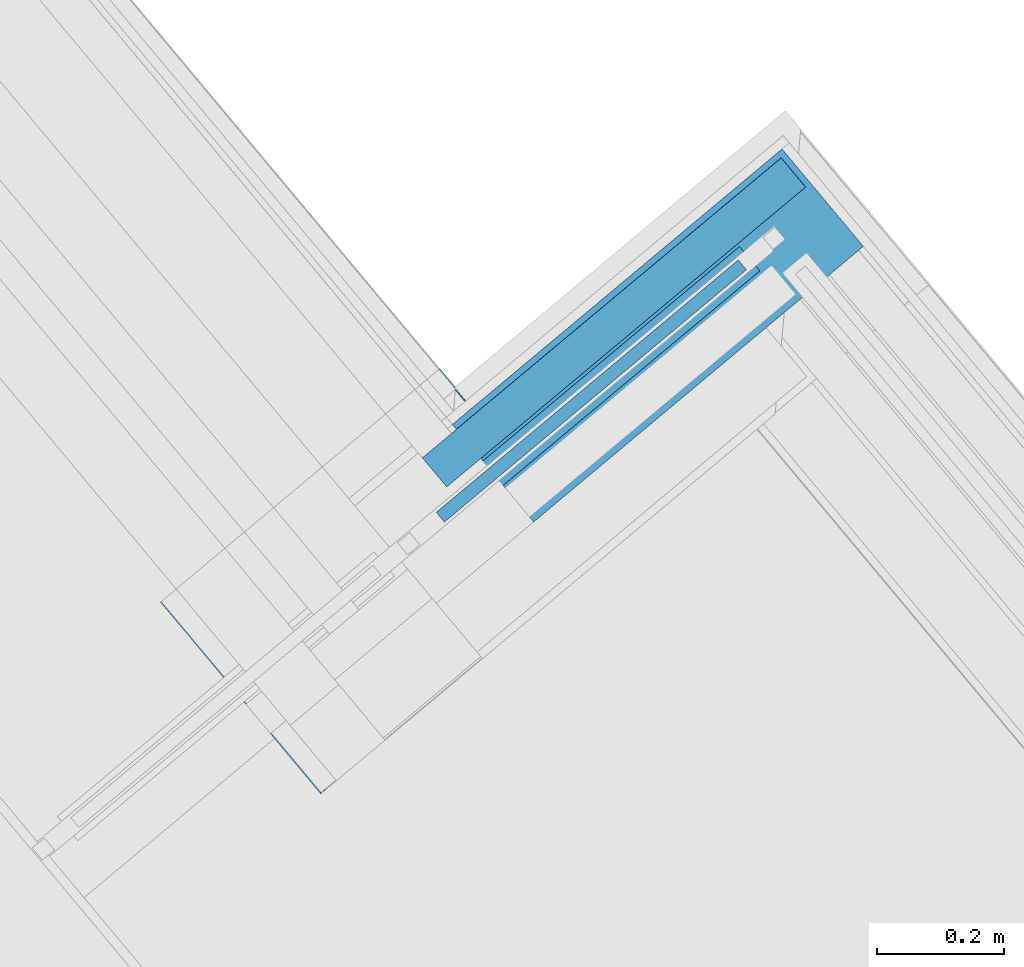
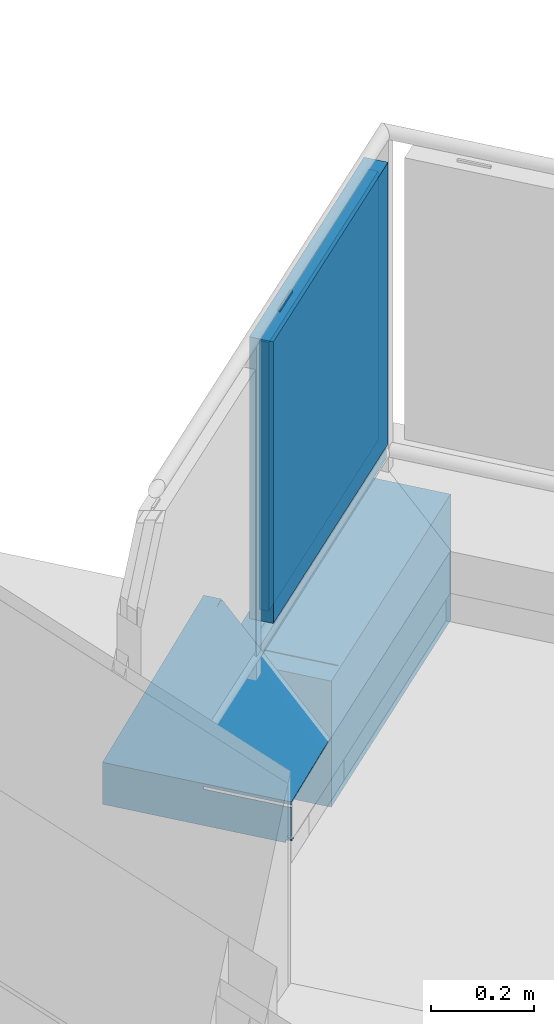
# One storey, part 51 of 61: 5 building element parts, 3 elements without a shape of their own.
"""IFC4 building model written with IfcOpenShell, lengths in metres."""

import ifcopenshell
import ifcopenshell.guid

model = None  # the IFC model being written
_history = None  # IfcOwnerHistory: only IFC2X3 demands one
_inside = {}  # id of a spatial element -> (the spatial element, [elements in it])
_under = {}  # id of a project, library or spatial element -> (it, [spatial elements below it])
_declared = {}  # id of a project -> (the project, [libraries it declares])
_typed = {}  # id of a type object -> (the type object, [elements of that type])
_made_of = {}  # id of a material, layer set ... -> (it, [elements and type objects made of it])


def new_model(schema):
    """Start an empty IFC model of exactly this schema.

    Asked for "IFC4X3", IfcOpenShell would pick the latest addendum, in which some entities
    have other attributes; the version numbers below select the first issue.
    IFC2X3 requires an IfcOwnerHistory on every rooted entity: one is made here for all.
    """
    global model, _history
    if schema == "IFC4X3":
        model = ifcopenshell.file(schema_version=(4, 3, 0, 0))
    else:
        model = ifcopenshell.file(schema=schema)
    _inside.clear()
    _under.clear()
    _declared.clear()
    _typed.clear()
    _made_of.clear()
    _history = None
    if model.schema == "IFC2X3":
        org = make("IfcOrganization", Name="unknown")
        user = make(
            "IfcPersonAndOrganization",
            ThePerson=make("IfcPerson", FamilyName="unknown"),
            TheOrganization=org,
        )
        app = make(
            "IfcApplication",
            ApplicationDeveloper=org,
            Version="unknown",
            ApplicationFullName="unknown",
            ApplicationIdentifier="unknown",
        )
        _history = make(
            "IfcOwnerHistory",
            OwningUser=user,
            OwningApplication=app,
            ChangeAction="ADDED",
            CreationDate=0,
        )
    return model


def make(cls, **values):
    """One entity of the class cls with the attributes given. An attribute that is None is left unset."""
    return model.create_entity(
        cls, **{name: value for name, value in values.items() if value is not None}
    )


def entity(cls, *values):
    """Any entity or typed value of the class cls, its attributes in the order of the schema. None: left unset."""
    e = model.create_entity(cls)
    for i, value in enumerate(values):
        if value is not None:
            e[i] = value
    return e


def rooted(cls, **values):
    """An entity with a GlobalId (a new one), such as an element, a storey or a relation."""
    return make(cls, GlobalId=ifcopenshell.guid.new(), OwnerHistory=_history, **values)


def si_unit(unit_type, name, prefix=None):
    """IfcSIUnit, for example si_unit("LENGTHUNIT", "METRE", prefix="MILLI")."""
    return make("IfcSIUnit", UnitType=unit_type, Prefix=prefix, Name=name)


def converted_unit(unit_type, name, factor, base, dimensions=None, offset=None):
    """IfcConversionBasedUnit, such as the inch: factor (a typed value) times the base unit."""
    return make(
        "IfcConversionBasedUnit"
        if offset is None
        else "IfcConversionBasedUnitWithOffset",
        ConversionOffset=offset,
        Dimensions=None
        if dimensions is None
        else entity("IfcDimensionalExponents", *dimensions),
        UnitType=unit_type,
        Name=name,
        ConversionFactor=make(
            "IfcMeasureWithUnit", ValueComponent=factor, UnitComponent=base
        ),
    )


def derived_unit(unit_type, elements):
    """IfcDerivedUnit: a product of units, each with its exponent."""
    return make(
        "IfcDerivedUnit",
        Elements=[
            make("IfcDerivedUnitElement", Unit=unit, Exponent=power)
            for unit, power in elements
        ],
        UnitType=unit_type,
    )


def assignment(units):
    """IfcUnitAssignment: the units of a project."""
    return None if units is None else make("IfcUnitAssignment", Units=units)


def point(xyz):
    """IfcCartesianPoint."""
    return None if xyz is None else make("IfcCartesianPoint", Coordinates=xyz)


def direction(xyz):
    """IfcDirection."""
    return None if xyz is None else make("IfcDirection", DirectionRatios=xyz)


def frame(location, z_axis=None, x_axis=None):
    """IfcAxis2Placement3D, a coordinate frame: its origin and axes. An axis left out is left unset."""
    return make(
        "IfcAxis2Placement3D",
        Location=point(location),
        Axis=direction(z_axis),
        RefDirection=direction(x_axis),
    )


def origin_with_axes():
    """The frame at (0, 0, 0) with the z axis (0, 0, 1) and the x axis (1, 0, 0) written out."""
    return frame((0.0, 0.0, 0.0), z_axis=(0.0, 0.0, 1.0), x_axis=(1.0, 0.0, 0.0))


def place(relative_to, where):
    """IfcLocalPlacement: puts the frame where relative to a parent placement (None: the world)."""
    return make(
        "IfcLocalPlacement", PlacementRelTo=relative_to, RelativePlacement=where
    )


def context(
    kind, dimensions, precision=None, world=None, true_north=None, identifier=None
):
    """IfcGeometricRepresentationContext, for example the 3D "Model" context."""
    return make(
        "IfcGeometricRepresentationContext",
        ContextIdentifier=identifier,
        ContextType=kind,
        CoordinateSpaceDimension=dimensions,
        Precision=precision,
        WorldCoordinateSystem=world,
        TrueNorth=true_north,
    )


def subcontext(parent, identifier, kind, view, scale=None):
    """IfcGeometricRepresentationSubContext, for example "Body" below "Model"."""
    return make(
        "IfcGeometricRepresentationSubContext",
        ContextIdentifier=identifier,
        ContextType=kind,
        ParentContext=parent,
        TargetScale=scale,
        TargetView=view,
    )


def project(units=None, contexts=None):
    """IfcProject with its units and contexts."""
    return rooted(
        "IfcProject",
        Name="project",
        RepresentationContexts=contexts,
        UnitsInContext=assignment(units),
    )


def spatial(cls, under=None, at=None, **own):
    """A site, building, storey or space (cls), placed at a placement, below another one or the project."""
    s = rooted(cls, ObjectPlacement=at, **own)
    if under is not None:
        _under.setdefault(under.id(), (under, []))[1].append(s)
    return s


def point_list(points):
    """IfcCartesianPointList2D or 3D."""
    cls = (
        "IfcCartesianPointList2D" if len(points[0]) == 2 else "IfcCartesianPointList3D"
    )
    return make(cls, CoordList=points)


def polygons(points, faces, closed=None, point_numbers=None):
    """IfcPolygonalFaceSet: a face is its outer loop, then its inner loops; points numbered from 1."""
    made = []
    for loops in faces:
        if len(loops) == 1:
            made.append(make("IfcIndexedPolygonalFace", CoordIndex=loops[0]))
        else:
            made.append(
                make(
                    "IfcIndexedPolygonalFaceWithVoids",
                    CoordIndex=loops[0],
                    InnerCoordIndices=loops[1:],
                )
            )
    return make(
        "IfcPolygonalFaceSet",
        Coordinates=point_list(points),
        Closed=closed,
        Faces=made,
        PnIndex=point_numbers,
    )


def shape(context_of_items, identifier, shape_type, items):
    """IfcShapeRepresentation: the items that make up one representation, for example the "Body"."""
    return make(
        "IfcShapeRepresentation",
        ContextOfItems=context_of_items,
        RepresentationIdentifier=identifier,
        RepresentationType=shape_type,
        Items=items,
    )


def material(Name=None, Category=None):
    """IfcMaterial."""
    return make("IfcMaterial", Name=Name, Category=Category)


def made_of(thing, what):
    """Note that an element or type object is made of a material, layer set ...; save() writes the relation."""
    if what is not None:
        _made_of.setdefault(what.id(), (what, []))[1].append(thing)
    return thing


def type_object(cls, material=None, **own):
    """A type object (cls), such as IfcWallType, which elements share."""
    return made_of(rooted(cls, **own), material)


def element(
    cls,
    number,
    at=None,
    inside=None,
    cuts=None,
    type_object=None,
    material=None,
    context=None,
    identifier="Body",
    shape_type=None,
    held_by="IfcProductDefinitionShape",
    body=None,
    shapes=None,
    **own,
):
    """One element of the class cls, such as IfcWall. Its Tag is "e" and its number.

    at: its placement. inside: the storey or other place that contains it. cuts: it is an
    opening in that element (IfcRelVoidsElement). A single representation is given by context,
    identifier, shape_type and body (its items); several are given by shapes. held_by: the class
    of the entity that holds the representations. save() writes the other relations.
    """
    e = rooted(cls, Tag="e%d" % number, ObjectPlacement=at, **own)
    if body is not None:
        shapes = [shape(context, identifier, shape_type, body)]
    if shapes is not None:
        e.Representation = make(held_by, Representations=shapes)
    if inside is not None:
        _inside.setdefault(inside.id(), (inside, []))[1].append(e)
    if cuts is not None:
        rooted(
            "IfcRelVoidsElement", RelatingBuildingElement=cuts, RelatedOpeningElement=e
        )
    if type_object is not None:
        _typed.setdefault(type_object.id(), (type_object, []))[1].append(e)
    return made_of(e, material)


def aggregate(whole, parts):
    """IfcRelAggregates: a whole, such as a stair, and the parts it consists of."""
    return rooted("IfcRelAggregates", RelatingObject=whole, RelatedObjects=parts)


def save(model, path):
    """Write the relations noted so far, then the file.

    IfcRelAggregates (storeys below a building ...), IfcRelContainedInSpatialStructure (elements
    in a storey), IfcRelDefinesByType, IfcRelAssociatesMaterial and IfcRelDeclares: one each for
    every whole, place, type object, material and project.
    """
    for whole, parts in _under.values():
        aggregate(whole, parts)
    for where, things in _inside.values():
        rooted(
            "IfcRelContainedInSpatialStructure",
            RelatedElements=things,
            RelatingStructure=where,
        )
    for kind, things in _typed.values():
        rooted("IfcRelDefinesByType", RelatedObjects=things, RelatingType=kind)
    for what, things in _made_of.values():
        rooted("IfcRelAssociatesMaterial", RelatedObjects=things, RelatingMaterial=what)
    for by, libraries in _declared.values():
        rooted("IfcRelDeclares", RelatingContext=by, RelatedDefinitions=libraries)
    model.write(path)


model = new_model("IFC4")

# Units and contexts
model_context = context("Model", 3, precision=1e-05, world=origin_with_axes(), true_north=direction((0.0, 1.0)))
body_context = subcontext(model_context, "Body", "Model", "MODEL_VIEW")
ifc_project = project(units=[si_unit("LENGTHUNIT", "METRE"), si_unit("AREAUNIT", "SQUARE_METRE"), si_unit("VOLUMEUNIT", "CUBIC_METRE"), converted_unit("PLANEANGLEUNIT", "DEGREE", entity("IfcPlaneAngleMeasure", 0.0174532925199), si_unit("PLANEANGLEUNIT", "RADIAN"), dimensions=[0, 0, 0, 0, 0, 0, 0]), converted_unit("TIMEUNIT", "Year", entity("IfcTimeMeasure", 31556926.0), si_unit("TIMEUNIT", "SECOND"), dimensions=[0, 0, 1, 0, 0, 0, 0]), si_unit("MASSUNIT", "GRAM", prefix="KILO"), si_unit("THERMODYNAMICTEMPERATUREUNIT", "DEGREE_CELSIUS"), si_unit("LUMINOUSINTENSITYUNIT", "LUMEN"), si_unit("ENERGYUNIT", "JOULE", prefix="MEGA"), derived_unit("THERMALCONDUCTANCEUNIT", [(si_unit("POWERUNIT", "WATT"), 1), (si_unit("LENGTHUNIT", "METRE"), -1), (si_unit("THERMODYNAMICTEMPERATUREUNIT", "KELVIN"), -1)]), derived_unit("SPECIFICHEATCAPACITYUNIT", [(si_unit("ENERGYUNIT", "JOULE"), 1), (si_unit("MASSUNIT", "GRAM", prefix="KILO"), -1), (si_unit("THERMODYNAMICTEMPERATUREUNIT", "KELVIN"), -1)]), derived_unit("MASSDENSITYUNIT", [(si_unit("MASSUNIT", "GRAM", prefix="KILO"), 1), (si_unit("VOLUMEUNIT", "CUBIC_METRE"), -1)])], contexts=[model_context])

# Site, building, storey
site_placement = place(None, frame((-0.00153261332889, -0.00661245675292, 0.0), z_axis=(0.0, 0.0, 1.0), x_axis=(1.0, 0.0, 0.0)))
site = spatial("IfcSite", under=ifc_project, at=site_placement, Name="Gelände", CompositionType="ELEMENT")
building_placement = place(site_placement, origin_with_axes())
building = spatial("IfcBuilding", under=site, at=building_placement, Name="Gebäude", CompositionType="ELEMENT")
storey_placement = place(building_placement, frame((0.0, 0.0, 5.7), z_axis=(0.0, 0.0, 1.0), x_axis=(1.0, 0.0, 0.0)))
storey = spatial("IfcBuildingStorey", under=building, at=storey_placement, Name="DG1", CompositionType="ELEMENT", Elevation=5.7)

# Wall, building element part
wall_type_1 = type_object("IfcWallType", Name="Bauteil - Attika Terrasse 1.DG 574 x 410", PredefinedType="NOTDEFINED")
wall_1_placement = place(storey_placement, frame((9.8973799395, 25.5957671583, -0.2), z_axis=(0.0, 0.0, 1.0), x_axis=(0.641209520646, -0.767365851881, 0.0)))
wall_1 = element("IfcWall", 1, at=wall_1_placement, inside=storey, type_object=wall_type_1, Name="Wand-003", PredefinedType="NOTDEFINED")
ifc_material_1 = material(Name="Stahl")
building_element_part_1_placement = place(wall_1_placement, origin_with_axes())
building_element_part_1 = element("IfcBuildingElementPart", 2, at=building_element_part_1_placement, material=ifc_material_1, Name="Stahl", PredefinedType="NOTDEFINED", context=body_context, shape_type="Tessellation", body=[
    polygons([(0.392247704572, -0.332051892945, 0.499999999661), (0.393601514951, -0.332051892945, 0.499999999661), (0.393601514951, -0.330698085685, 0.499999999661), (0.392247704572, -0.330698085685, 0.499999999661), (0.391162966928, -0.332051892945, 0.499999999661), (0.389248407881, -0.332051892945, 0.499999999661), (0.38342770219, -0.332051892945, 0.505820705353), (0.384431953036, -0.332051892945, 0.506731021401), (0.392247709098, -0.332051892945, 0.506731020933), (0.392247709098, -0.332051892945, 0.50905023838), (0.392247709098, -0.332051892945, 0.509099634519), (0.392247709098, -0.332051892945, 0.511361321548), (0.392247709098, -0.332051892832, 0.511410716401), (0.392247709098, -0.332051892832, 0.519224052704), (0.392247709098, -0.332051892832, 0.519273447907), (0.392247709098, -0.332051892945, 0.559999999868), (0.392247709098, -0.332051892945, 0.567947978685), (0.392247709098, -0.332051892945, 0.573880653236), (0.392247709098, -0.332051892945, 0.575576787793), (0.392247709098, -0.332051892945, 0.575979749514), (0.391553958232, -0.332051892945, 0.575979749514), (0.38000056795, -0.332051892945, 0.575979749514), (0.269946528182, -0.332051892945, 0.575979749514), (0.209857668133, -0.332051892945, 0.575979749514), (0.209857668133, -0.332051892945, 0.579822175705), (0.209857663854, -0.332051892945, 0.581921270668), (0.391761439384, -0.332051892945, 0.581921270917), (0.392247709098, -0.332051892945, 0.581921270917), (0.392247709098, -0.332051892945, 0.584015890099), (0.392247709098, -0.332051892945, 0.586106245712), (0.392247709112, -0.332051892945, 0.587937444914), (0.392247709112, -0.332051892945, 0.589243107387), (0.0, -0.332051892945, 0.589243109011), (0.0, -0.332051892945, 0.489652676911), (0.380000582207, -0.332051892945, 0.489652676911), (0.380000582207, -0.332051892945, 0.49660417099), (0.392644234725, -0.332051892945, 0.49660417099), (0.393601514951, -0.332051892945, 0.497561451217), (0.393601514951, -0.330698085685, 0.497561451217), (0.380000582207, -0.330698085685, 0.49660417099), (0.380000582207, -0.330698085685, 0.491006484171), (0.0, -0.330698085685, 0.491006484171), (0.0, -0.330698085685, 0.587937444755), (0.392247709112, -0.330698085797, 0.587937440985), (0.392247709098, -0.330698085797, 0.586106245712), (0.392247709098, -0.330698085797, 0.584015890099), (0.392247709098, -0.330698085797, 0.581921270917), (0.391761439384, -0.330698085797, 0.581921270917), (0.209857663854, -0.330698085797, 0.581921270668), (0.209857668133, -0.330698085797, 0.579822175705), (0.209857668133, -0.330698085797, 0.575979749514), (0.269946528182, -0.330698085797, 0.575979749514), (0.38000056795, -0.330698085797, 0.575979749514), (0.391553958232, -0.330698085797, 0.575979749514), (0.392247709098, -0.330698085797, 0.575979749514), (0.392247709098, -0.330698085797, 0.575576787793), (0.392247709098, -0.330698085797, 0.573880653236), (0.392247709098, -0.330698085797, 0.567947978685), (0.392247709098, -0.330698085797, 0.559999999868), (0.392247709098, -0.330698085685, 0.519273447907), (0.392247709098, -0.330698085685, 0.519224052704), (0.392247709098, -0.330698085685, 0.511410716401), (0.392247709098, -0.330698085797, 0.511361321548), (0.392247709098, -0.330698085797, 0.509099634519), (0.392247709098, -0.330698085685, 0.50905023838), (0.392247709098, -0.330698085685, 0.506731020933), (0.384431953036, -0.330698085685, 0.506731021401), (0.38342770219, -0.330698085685, 0.505820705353), (0.389248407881, -0.330698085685, 0.499999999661), (0.391162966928, -0.330698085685, 0.499999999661), (0.392644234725, -0.330698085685, 0.49660417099), (0.392247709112, -0.112227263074, 0.595846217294), (0.392247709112, -0.149648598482, 0.595846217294), (0.0407240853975, 0.201855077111, 0.608570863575), (0.0401131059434, 0.202731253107, 0.608602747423), (0.0399067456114, 0.202731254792, 0.608602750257), (0.0386406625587, 0.202731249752, 0.608602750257), (0.0372932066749, 0.202731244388, 0.608602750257), (0.0372932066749, 0.204095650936, 0.60865214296), (0.0372932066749, 0.241500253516, 0.610006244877), (0.0, 0.241500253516, 0.610006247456), (0.0, -0.331094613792, 0.488695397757), (0.0, 0.241500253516, 0.510007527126), (0.0, 0.240542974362, 0.509050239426), (0.0, 0.231373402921, 0.518219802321), (0.0, 0.232283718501, 0.519224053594), (0.0, 0.240146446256, 0.51136132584), (0.0, 0.240152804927, 0.608602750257), (0.0, 0.239276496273, 0.608570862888), (0.0, -0.32288233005, 0.498822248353), (0.0, -0.321878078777, 0.497911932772), (0.380000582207, -0.331094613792, 0.488695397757), (0.380000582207, -0.323185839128, 0.49660417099), (0.380000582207, -0.325100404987, 0.49660417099), (0.392644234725, -0.325100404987, 0.49660417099), (0.393601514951, -0.324143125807, 0.497561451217), (0.393601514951, -0.32288233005, 0.498822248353), (0.0407240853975, 0.239276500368, 0.608570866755), (0.0399067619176, 0.240152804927, 0.608602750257), (0.0386406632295, 0.240152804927, 0.608602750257), (0.0372932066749, 0.240152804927, 0.608602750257), (0.0372932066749, 0.241500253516, 0.608602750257), (0.0372932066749, 0.241500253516, 0.60865214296), (0.0372932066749, 0.241500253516, 0.511361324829), (0.0372932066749, 0.241500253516, 0.510056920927), (0.0373426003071, 0.241500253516, 0.510007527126), (0.0372932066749, 0.241500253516, 0.608570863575), (0.0372932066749, 0.241500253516, 0.595846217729), (0.0372932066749, 0.241500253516, 0.587937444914), (0.0372932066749, 0.241500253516, 0.586106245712), (0.0372932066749, 0.241500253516, 0.584015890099), (0.0372932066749, 0.241500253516, 0.581921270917), (0.0372932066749, 0.241500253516, 0.57982217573), (0.0372932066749, 0.241500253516, 0.575979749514), (0.0372932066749, 0.241500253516, 0.575576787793), (0.0372932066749, 0.241500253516, 0.573880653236), (0.0372932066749, 0.241500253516, 0.567947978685), (0.0372932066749, 0.241500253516, 0.559999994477), (0.0372932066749, 0.241500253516, 0.519273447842), (0.0372932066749, 0.241500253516, 0.519224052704), (0.0372932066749, 0.241500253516, 0.511410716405), (0.0382504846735, 0.240592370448, 0.509099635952), (0.0650006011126, 0.240592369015, 0.509099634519), (0.280000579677, 0.240592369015, 0.509099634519), (0.280000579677, 0.240542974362, 0.509050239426), (0.0405615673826, 0.238182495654, 0.511410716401), (0.0386470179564, 0.238182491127, 0.511410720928), (0.0454560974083, 0.231373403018, 0.518219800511), (0.280000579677, 0.240493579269, 0.509099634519), (0.0650006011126, 0.240493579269, 0.509099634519), (0.0382504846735, 0.240493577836, 0.509099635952), (0.0372932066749, 0.239536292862, 0.510056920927), (0.0372932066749, 0.238231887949, 0.51136132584), (0.0405121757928, 0.238231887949, 0.51136132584), (0.0650006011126, 0.238231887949, 0.51136132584), (0.280000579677, 0.238231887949, 0.51136132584), (0.280000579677, 0.238182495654, 0.511410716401), (0.0650006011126, 0.238182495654, 0.511410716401), (0.0464603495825, 0.232283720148, 0.51922405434), (0.0386470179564, 0.240097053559, 0.511410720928), (0.0405615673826, 0.240097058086, 0.511410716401), (0.0650006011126, 0.240097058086, 0.511410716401), (0.280000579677, 0.240097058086, 0.511410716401), (0.280000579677, 0.240146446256, 0.51136132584), (0.0650006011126, 0.240146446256, 0.51136132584), (0.0405121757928, 0.240146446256, 0.51136132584), (0.0372932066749, 0.240146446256, 0.51136132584), (0.0372932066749, 0.240146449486, 0.511410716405), (0.0372932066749, 0.240146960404, 0.519224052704), (0.0372932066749, 0.240146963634, 0.519273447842), (0.0372932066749, 0.240149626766, 0.559999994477), (0.0372932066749, 0.240150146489, 0.567947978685), (0.0372932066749, 0.24015053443, 0.573880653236), (0.0372932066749, 0.240150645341, 0.575576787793), (0.0372932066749, 0.240150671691, 0.575979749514), (0.0372932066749, 0.240150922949, 0.57982217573), (0.0372932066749, 0.24015106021, 0.581921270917), (0.0372932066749, 0.240151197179, 0.584015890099), (0.0372932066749, 0.240151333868, 0.586106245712), (0.0372932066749, 0.240151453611, 0.587937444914), (0.0372932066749, 0.24015197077, 0.595846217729), (0.0372932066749, 0.240152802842, 0.608570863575), (0.393601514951, -0.321878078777, 0.497911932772), (0.393601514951, -0.322228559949, 0.497561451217), (0.392644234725, -0.323185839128, 0.49660417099)], [[[1, 2, 3, 4]], [[2, 1, 5, 6, 7, 8, 9, 10, 11, 12, 13, 14, 15, 16, 17, 18, 19, 20, 21, 22, 23, 24, 25, 26, 27, 28, 29, 30, 31, 32, 33, 34, 35, 36, 37, 38]], [[2, 38, 39, 3]], [[40, 41, 42, 43, 44, 45, 46, 47, 48, 49, 50, 51, 52, 53, 54, 55, 56, 57, 58, 59, 60, 61, 62, 63, 64, 65, 66, 67, 68, 69, 70, 4, 3, 39, 71]], [[5, 1, 4, 70]], [[6, 5, 70, 69]], [[7, 6, 69, 68]], [[7, 68, 67, 8]], [[9, 8, 67, 66]], [[10, 9, 66, 65]], [[11, 10, 65, 64]], [[12, 11, 64, 63]], [[13, 12, 63, 62]], [[14, 13, 62, 61]], [[15, 14, 61, 60]], [[16, 15, 60, 59]], [[17, 16, 59, 58]], [[18, 17, 58, 57]], [[19, 18, 57, 56]], [[20, 19, 56, 55]], [[21, 20, 55, 54]], [[22, 21, 54, 53]], [[22, 53, 52, 23]], [[24, 23, 52, 51]], [[24, 51, 50, 25]], [[25, 50, 49, 26]], [[27, 26, 49, 48]], [[28, 27, 48, 47]], [[29, 28, 47, 46]], [[30, 29, 46, 45]], [[31, 30, 45, 44]], [[32, 31, 44, 72, 73]], [[33, 32, 73, 74, 75, 76, 77, 78, 79, 80, 81]], [[82, 34, 33, 81, 83, 84, 85, 86, 87, 88, 89, 43, 42, 90, 91]], [[92, 35, 34, 82]], [[36, 35, 92, 93, 94, 41, 40]], [[37, 36, 40, 71]], [[38, 37, 71, 39]], [[41, 94, 95, 96, 97, 90, 42]], [[44, 43, 89, 98, 72]], [[73, 72, 98, 74]], [[74, 98, 99, 76, 75]], [[77, 76, 99, 100]], [[78, 77, 100, 101]], [[79, 78, 101, 102, 103]], [[80, 79, 103]], [[104, 105, 106, 83, 81, 80, 103, 102, 107, 108, 109, 110, 111, 112, 113, 114, 115, 116, 117, 118, 119, 120, 121]], [[84, 83, 106, 122, 123, 124, 125]], [[126, 127, 128, 85, 84, 125, 129, 130, 131, 132, 133, 134, 135, 136, 137, 138]], [[128, 139, 86, 85]], [[139, 140, 141, 142, 143, 144, 145, 146, 147, 87, 86]], [[87, 147, 148, 149, 150, 151, 152, 153, 154, 155, 156, 157, 158, 159, 160, 161, 162, 101, 88]], [[101, 100, 99, 98, 89, 88]], [[91, 90, 97, 163]], [[93, 92, 82, 91, 163, 164, 165]], [[94, 93, 165, 95]], [[96, 95, 165, 164]], [[96, 164, 163, 97]], [[101, 162, 107, 102]], [[132, 105, 104, 147, 133]], [[132, 131, 122, 106, 105]], [[162, 161, 108, 107]], [[161, 160, 109, 108]], [[160, 159, 110, 109]], [[159, 158, 111, 110]], [[158, 157, 112, 111]], [[157, 156, 113, 112]], [[156, 155, 114, 113]], [[155, 154, 115, 114]], [[154, 153, 116, 115]], [[153, 152, 117, 116]], [[152, 151, 118, 117]], [[151, 150, 119, 118]], [[150, 149, 120, 119]], [[149, 148, 121, 120]], [[148, 147, 104, 121]], [[122, 131, 130, 123]], [[129, 124, 123, 130]], [[129, 125, 124]], [[127, 126, 141, 140]], [[139, 128, 127, 140]], [[134, 133, 147, 146]], [[135, 134, 146, 145]], [[136, 135, 145, 144]], [[137, 136, 144, 143]], [[138, 137, 143, 142]], [[126, 138, 142, 141]]], closed=True),
])
aggregate(wall_1, [building_element_part_1])

# Wall, building element parts
wall_type_2 = type_object("IfcWallType", Name="Bauteil - Attika Balkon 356 x 610", PredefinedType="NOTDEFINED")
wall_2_placement = place(storey_placement, frame((10.0769189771, 25.3809042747, -0.2), z_axis=(0.0, 0.0, 1.0), x_axis=(0.767365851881, 0.641209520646, 0.0)))
wall_2 = element("IfcWall", 3, at=wall_2_placement, inside=storey, type_object=wall_type_2, Name="Wand-003", PredefinedType="NOTDEFINED")
ifc_material_2 = material(Name="Vollholz")
building_element_part_2_placement = place(wall_2_placement, origin_with_axes())
building_element_part_2 = element("IfcBuildingElementPart", 4, at=building_element_part_2_placement, material=ifc_material_2, Name="Vollholz", PredefinedType="NOTDEFINED", context=body_context, shape_type="Tessellation", body=[
    polygons([(0.130124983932, 0.189996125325, 0.584015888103), (0.189984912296, 0.189984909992, 0.586106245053), (0.866914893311, 0.189984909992, 0.586106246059), (0.866926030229, 0.189996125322, 0.584015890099), (0.866937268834, 0.190007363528, 0.581921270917), (0.866948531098, 0.190018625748, 0.57982217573), (0.866971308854, 0.190041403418, 0.575576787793), (0.867054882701, 0.190124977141, 0.559999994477), (0.130124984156, 0.190124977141, 0.559999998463), (0.130124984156, 0.190082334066, 0.567947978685), (0.130124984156, 0.190050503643, 0.573880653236), (0.130124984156, 0.190041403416, 0.575576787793), (0.130124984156, 0.190039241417, 0.575979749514), (0.130124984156, 0.190018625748, 0.57982217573), (0.130124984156, 0.190007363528, 0.581921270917), (0.130124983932, 0.130124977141, 0.584015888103), (0.866925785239, 0.130124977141, 0.584015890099), (0.866937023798, 0.130124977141, 0.581921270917), (0.866948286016, 0.130124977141, 0.57982217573), (0.866971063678, 0.130124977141, 0.575576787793), (0.867054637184, 0.130124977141, 0.559999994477), (0.130124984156, 0.130124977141, 0.559999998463), (0.130124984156, 0.130124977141, 0.567947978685), (0.130124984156, 0.130124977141, 0.573880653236), (0.130124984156, 0.130124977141, 0.575576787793), (0.130124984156, 0.130124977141, 0.575979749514), (0.130124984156, 0.130124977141, 0.57982217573), (0.130124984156, 0.130124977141, 0.581921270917)], [[[1, 2, 3, 4, 5, 6, 7, 8, 9, 10, 11, 12, 13, 14, 15]], [[16, 2, 1]], [[2, 16, 17, 3]], [[3, 17, 4]], [[17, 18, 5, 4]], [[6, 5, 18, 19]], [[19, 20, 7, 6]], [[21, 8, 7, 20]], [[9, 8, 21, 22]], [[22, 23, 10, 9]], [[24, 11, 10, 23]], [[24, 25, 12, 11]], [[25, 26, 13, 12]], [[14, 13, 26, 27]], [[27, 28, 15, 14]], [[16, 1, 15, 28]], [[21, 20, 19, 18, 17, 16, 28, 27, 26, 25, 24, 23, 22]]], closed=True),
])
ifc_material_3 = material(Name="Stahlbeton")
building_element_part_3_placement = place(wall_2_placement, origin_with_axes())
building_element_part_3 = element("IfcBuildingElementPart", 5, at=building_element_part_3_placement, material=ifc_material_3, Name="Stahlbeton", PredefinedType="NOTDEFINED", context=body_context, shape_type="Tessellation", body=[
    polygons([(0.19999996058, 0.19999996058, 0.499999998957), (0.19999996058, 1.05296926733e-09, 0.499999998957), (0.876929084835, 1.05296926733e-09, 0.500000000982), (0.876929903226, 0.19999996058, 0.500000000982), (0.19999996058, 1.05296926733e-09, 0.498915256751), (0.19999996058, 0.19999996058, 0.498915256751), (0.19999996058, 1.05296926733e-09, 0.498822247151), (0.19999996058, 1.05296926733e-09, 0.496604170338), (0.19999996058, 1.05296926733e-09, 0.49100648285), (0.19999996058, 1.05296926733e-09, 0.488695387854), (0.19999996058, 1.05296926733e-09, 0.335), (0.876929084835, 1.05296926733e-09, 0.334999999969), (0.876929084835, 1.05296926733e-09, 0.496604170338), (0.876929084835, 1.05296926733e-09, 0.498915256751), (0.876929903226, 0.19999996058, 0.498915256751), (0.876929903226, 0.19999996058, 0.496604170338), (0.876929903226, 0.19999996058, 0.334999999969), (0.876929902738, 0.19999996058, 0.2), (0.19999996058, 0.19999996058, 0.2), (0.19999996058, 0.19999996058, 0.335), (0.19999996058, 0.19999996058, 0.488695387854), (0.19999996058, 0.19999996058, 0.49100648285), (0.19999996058, 0.19999996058, 0.496604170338), (0.19999996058, 0.19999996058, 0.498822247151), (0.19999996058, 1.05296926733e-09, 0.2), (0.876929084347, 1.05297104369e-09, 0.2)], [[[1, 2, 3, 4]], [[5, 2, 1, 6]], [[2, 5, 7, 8, 9, 10, 11, 12, 13, 14, 3]], [[4, 3, 14, 15]], [[6, 1, 4, 15, 16, 17, 18, 19, 20, 21, 22, 23, 24]], [[5, 6, 24, 7]], [[7, 24, 23, 8]], [[8, 23, 22, 9]], [[9, 22, 21, 10]], [[10, 21, 20, 11]], [[11, 25, 26, 12]], [[16, 13, 12, 17]], [[15, 14, 13, 16]], [[17, 12, 26, 18]], [[25, 19, 18, 26]], [[11, 20, 19, 25]]], closed=True),
])
aggregate(wall_2, [building_element_part_2, building_element_part_3])

# Space
space_placement = place(storey_placement, frame((9.89495575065, 25.0808160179, 0.22), z_axis=(0.0, 0.0, 1.0), x_axis=(-0.767365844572, -0.641209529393, 0.0)))
space = spatial("IfcSpace", under=storey, at=space_placement, CompositionType="ELEMENT", PredefinedType="NOTDEFINED")

# Railing, building element parts
railing_type = type_object("IfcRailingType", Name="Geländerart", PredefinedType="NOTDEFINED")
railing_placement = place(space_placement, frame((0.391162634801, 5.51606821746, 0.16), z_axis=(0.0, 0.0, 1.0), x_axis=(-0.767365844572, 0.641209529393, 0.0)))
railing = element("IfcRailing", 6, at=railing_placement, inside=space, type_object=railing_type, Name="Geländer - 001", PredefinedType="NOTDEFINED")
ifc_material_4 = material(Name="Profilit")
building_element_part_4_placement = place(railing_placement, origin_with_axes())
building_element_part_4 = element("IfcBuildingElementPart", 7, at=building_element_part_4_placement, material=ifc_material_4, Name="Profilit", PredefinedType="NOTDEFINED", context=body_context, shape_type="Tessellation", body=[
    polygons([(-3.04204542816, 4.91171277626, 0.135), (-2.56622087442, 5.30931091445, 0.135), (-2.56622087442, 5.30931091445, 0.775), (-3.04204542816, 4.91171277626, 0.775), (-2.57904506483, 5.32465823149, 0.135), (-3.05486961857, 4.9270600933, 0.135), (-2.57904506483, 5.32465823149, 0.775), (-3.05486961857, 4.9270600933, 0.775)], [[[1, 2, 3, 4]], [[5, 2, 1, 6]], [[7, 3, 2, 5]], [[4, 3, 7, 8]], [[1, 4, 8, 6]], [[7, 5, 6, 8]]], closed=True),
])
ifc_material_5 = material(Name="Aluminium")
building_element_part_5_placement = place(railing_placement, origin_with_axes())
building_element_part_5 = element("IfcBuildingElementPart", 8, at=building_element_part_5_placement, material=ifc_material_5, Name="Aluminium", PredefinedType="NOTDEFINED", context=body_context, shape_type="Tessellation", body=[
    polygons([(-2.63625604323, 5.26056334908, 0.12), (-2.68997165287, 5.21567868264, 0.12), (-2.68997165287, 5.21567868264, 0.095), (-2.63625604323, 5.26056334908, 0.095), (-2.63946209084, 5.26440017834, 0.12), (-2.69317770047, 5.2195155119, 0.12), (-2.69317770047, 5.2195155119, 0.095), (-2.63946209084, 5.26440017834, 0.095)], [[[1, 2, 3, 4]], [[5, 6, 2, 1]], [[2, 6, 7, 3]], [[4, 3, 7, 8]], [[1, 4, 8, 5]], [[8, 7, 6, 5]]], closed=True),
    polygons([(-2.98162840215, 4.97197082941, 0.79), (-2.92791279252, 5.01685549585, 0.79), (-2.92791279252, 5.01685549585, 0.795), (-2.98162840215, 4.97197082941, 0.795), (-2.98483444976, 4.97580765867, 0.79), (-2.93111884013, 5.02069232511, 0.79), (-2.93111884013, 5.02069232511, 0.795), (-2.98483444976, 4.97580765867, 0.795)], [[[1, 2, 3, 4]], [[5, 6, 2, 1]], [[2, 6, 7, 3]], [[4, 3, 7, 8]], [[1, 4, 8, 5]], [[8, 7, 6, 5]]], closed=True),
    polygons([(-2.57715271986, 5.34578686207, 0.12), (-2.54509224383, 5.30741856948, 0.12), (-3.04393777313, 4.89058414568, 0.12), (-3.07599824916, 4.92895243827, 0.12), (-2.5925000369, 5.33296267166, 0.14), (-2.58288189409, 5.32145218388, 0.14), (-2.57904506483, 5.32465823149, 0.135), (-2.56622087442, 5.30931091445, 0.135), (-2.57005770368, 5.30610486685, 0.14), (-2.56043956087, 5.29459437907, 0.14), (-3.02859045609, 4.90340833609, 0.14), (-3.02859045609, 4.90340833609, 0.77), (-2.56043956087, 5.29459437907, 0.77), (-2.56043956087, 5.29459437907, 0.14), (-2.54509224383, 5.30741856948, 0.12), (-2.54509224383, 5.30741856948, 0.79), (-3.04393777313, 4.89058414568, 0.79), (-3.07599824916, 4.92895243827, 0.79), (-2.57715271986, 5.34578686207, 0.79), (-2.57715271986, 5.34578686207, 0.12), (-2.5925000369, 5.33296267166, 0.14), (-2.5925000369, 5.33296267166, 0.77), (-3.06065093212, 4.94177662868, 0.77), (-3.06065093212, 4.94177662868, 0.14), (-3.05103278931, 4.93026614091, 0.14), (-3.05103278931, 4.93026614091, 0.77), (-2.58288189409, 5.32145218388, 0.77), (-2.58288189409, 5.32145218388, 0.14), (-2.57904506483, 5.32465823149, 0.135), (-2.57904506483, 5.32465823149, 0.775), (-3.05486961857, 4.9270600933, 0.775), (-3.05486961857, 4.9270600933, 0.135), (-3.04204542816, 4.91171277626, 0.135), (-3.04204542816, 4.91171277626, 0.775), (-2.56622087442, 5.30931091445, 0.775), (-2.56622087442, 5.30931091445, 0.135), (-2.57005770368, 5.30610486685, 0.14), (-2.57005770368, 5.30610486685, 0.77), (-3.0382085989, 4.91491882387, 0.77), (-3.0382085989, 4.91491882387, 0.14)], [[[1, 2, 3, 4]], [[1, 5, 6, 7, 8, 9, 10, 2]], [[2, 10, 11, 12, 13, 14, 15, 16, 17, 3]], [[4, 3, 17, 18]], [[5, 1, 4, 18, 19, 20, 21, 22, 23, 24]], [[6, 5, 24, 25]], [[7, 6, 25, 26, 27, 28, 29, 30, 31, 32]], [[8, 7, 32, 33]], [[9, 8, 33, 34, 35, 36, 37, 38, 39, 40]], [[10, 9, 40, 11]], [[11, 40, 39, 12]], [[12, 39, 38, 13]], [[13, 38, 37, 14]], [[20, 15, 14, 37, 36, 29, 28, 21]], [[19, 16, 15, 20]], [[18, 17, 16, 19]], [[27, 22, 21, 28]], [[26, 23, 22, 27]], [[25, 24, 23, 26]], [[35, 30, 29, 36]], [[34, 31, 30, 35]], [[33, 32, 31, 34]]], closed=True),
])
aggregate(railing, [building_element_part_4, building_element_part_5])

save(model, "model.ifc")
